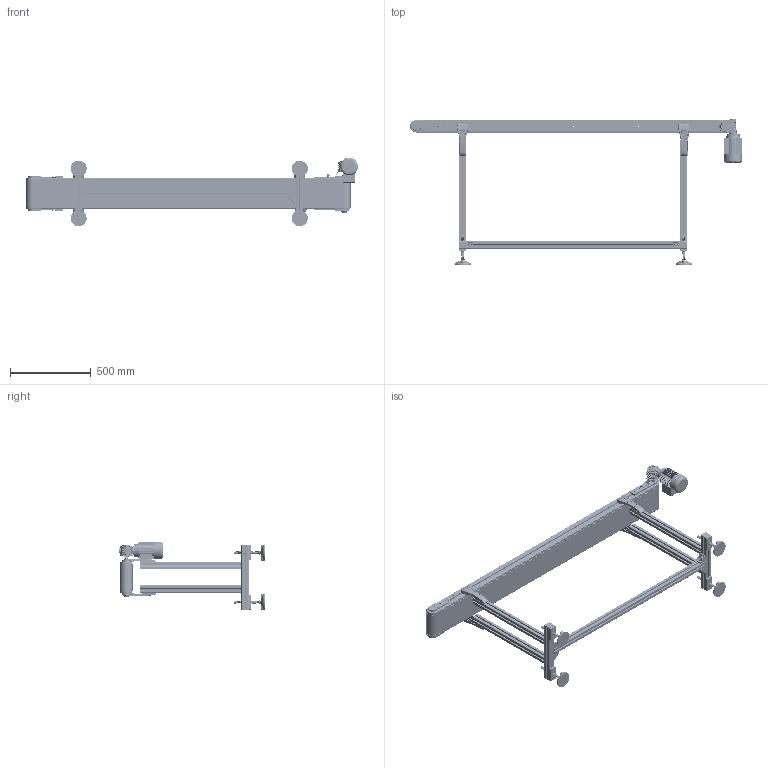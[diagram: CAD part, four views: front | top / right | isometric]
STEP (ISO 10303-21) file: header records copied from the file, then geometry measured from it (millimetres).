
FILE_DESCRIPTION (( 'STEP AP203' ), '1' );
FILE_NAME ('NASTRO_3020.step', '2026-04-29T13:51:46', ( 'Utente Windows' ), ( '' ), 'SwSTEP 2.0', 'SolidWorks 2024', '' );
FILE_SCHEMA (( 'CONFIG_CONTROL_DESIGN' ));
Length unit declared in the file: millimetre
Products named in the file (46): 2010.000.068; FLANGIA_GAMBA; VITI TSEI UNI 5933 INOX_0410UNI5933A2; 2010.000.070; 084.802.062; 084.307.006; 084.402.005; 3020.006.200; 084.802.008; 3020.006.130_DX; 3020.006.002; CH03P_DX; 084.802.017_084.802.017; 084.802.077_chiuso; 084.302.000 DADI ALUSIC 13x13-1_084.302.009; GAMBE_3020_Default<A macchina>; 084.808.012; 3020.006.003; 084.807.003_084.807.003<A macchina>; NASTRO_3020; RONDELLE UNI 6592_8.4x17 UNI 6592; ANGOLARE_43; VITI TE UNI 5739_M8x16 UNI 5739; 3020.000.005; GRANI A PUNTA CONICA UNI 5927 INOX_M6x40 UNI 5927 INOX; 084.302.000 DADI ALUSIC 13x13_084.302.004; CHIAVETTE_A 5x5x50 UNI 6604-69; RONDELLE FASCIA LARGA UNI 6593_6.4x24 UNI 6593; 084.807.014_084.807.002; 084.301.000 VITI ALUSIC1_084.301.003; CATENA_3020_DIRITTO; 084.201.012-1; 084.302.000 DADI ALUSIC 13x13-1_084.302.004; 2010.000.068_L; 084.301.000 VITI ALUSIC_084.301.003; 3020.000.006; TRAVERSA_SINGOLA_Default<A macchina>; CHIAVETTE_A 5x5x30 UNI 6604-69; 084.802.078_chiuso con cono; VITI TE UNI 5739_M6x16 UNI 5739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
Assembly tree (110 placements, depth 4):
  NASTRO_3020
    CATENA_3020_DIRITTO
    3020.006.130_DX
      084.807.003_084.807.003<A macchina>  x2
      084.802.017_084.802.017  x2
      084.301.000 VITI ALUSIC_084.301.003  x4
      084.302.000 DADI ALUSIC 13x13_084.302.004  x4
      3020.006.003
      VITI TE UNI 5739_M8x16 UNI 5739
      084.802.062
      VITI TSEI UNI 5933 INOX_0410UNI5933A2  x4
      CHIAVETTE_A 5x5x50 UNI 6604-69
      CHIAVETTE_A 5x5x30 UNI 6604-69  x2
      3020.000.005  x2
      RONDELLE FASCIA LARGA UNI 6593_6.4x24 UNI 6593
      VITI TE UNI 5739_M6x16 UNI 5739
      084.802.077_chiuso
      084.802.078_chiuso con cono
      084.808.012
      RONDELLE UNI 6592_8.4x17 UNI 6592
    3020.006.200
      084.802.008  x2
      084.301.000 VITI ALUSIC_084.301.003  x6
      084.302.000 DADI ALUSIC 13x13_084.302.004  x6
      3020.000.006
      3020.006.002
      084.807.014_084.807.002  x2
      084.802.076_chiuso  x2
      VITI TSEI UNI 5933 INOX_0410UNI5933A2  x4
      GRANI A PUNTA CONICA UNI 5927 INOX_M6x40 UNI 5927 INOX  x2
    084.307.006
    TELAIO_3020_6_1_Default<A macchina>
    GAMBE_3020_Default<A macchina>  x2
    FLANGIA_GAMBA  x4
      084.302.000 DADI ALUSIC 13x13-1_084.302.004
      RONDELLE UNI 6592_8.4x17 UNI 6592
      084.301.000 VITI ALUSIC_084.301.003
      2010.000.068
        2010.000.068_L
        2010.000.069
        2010.000.070
    PIEDE  x4
      084.405.001
      084.402.005
      084.301.000 VITI ALUSIC1_084.301.003
    084.201.012-1  x8
    ANGOLARE_43  x4
      084.305.003-1
      084.302.000 DADI ALUSIC 13x13-1_084.302.009
      084.301.000 VITI ALUSIC_084.301.003
    TRAVERSA_SINGOLA_Default<A macchina>
    CH03P_DX
Bounding box: 2058.7 x 907.15 x 425.94 mm (x, y, z)
Volume: 17380162 mm3; surface area: 7047900.4 mm2
Topology: 204 solids, 208 shells, 11379 faces, 29870 edges, 19110 vertices
Faces by surface type: plane 4651, cylinder 3828, bspline 1116, cone 1088, torus 632, sphere 64
Entity records: 175642 total; most frequent: CARTESIAN_POINT 61147, ORIENTED_EDGE 23658, DIRECTION 21496, EDGE_CURVE 11829, VERTEX_POINT 7607, AXIS2_PLACEMENT_3D 7523, LINE 6450, VECTOR 6450
